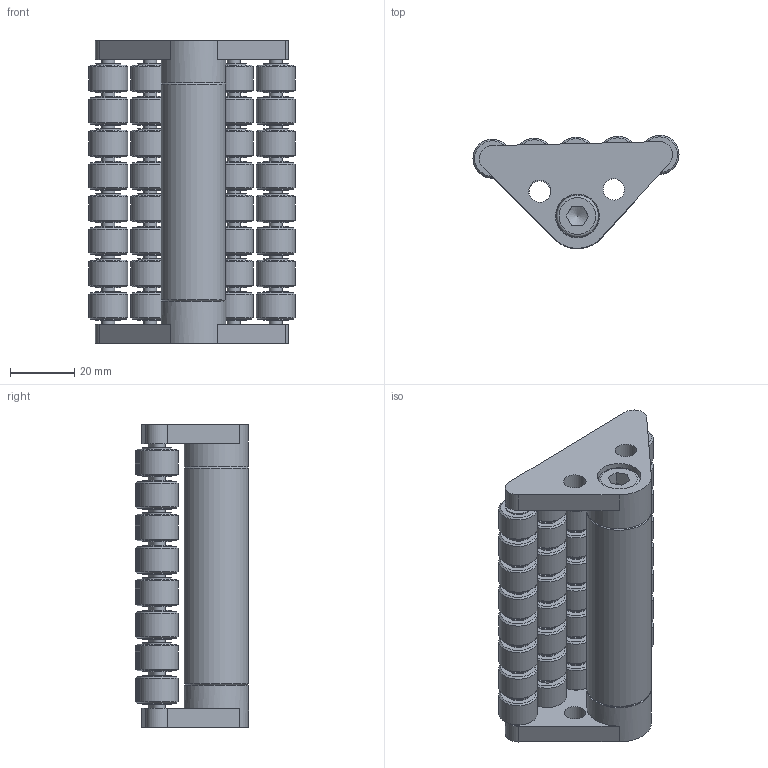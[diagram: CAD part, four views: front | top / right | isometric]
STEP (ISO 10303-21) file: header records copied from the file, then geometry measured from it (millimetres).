
FILE_DESCRIPTION(/* description */ ('RULLÖVERGÅNG STD S530'),/* implementation_level */ '2;1');
FILE_NAME(/* name */ '500-7010.stp',/* time_stamp */ '2022-09-22T10:29:56+02:00',/* author */ ('PL'),/* organization */ ('CARRYLINE'),/* preprocessor_version */ 'ST-DEVELOPER v19.2',/* originating_system */ 'Autodesk Inventor 2023',/* authorisation */ '');
FILE_SCHEMA (('AUTOMOTIVE_DESIGN { 1 0 10303 214 3 1 1 }'));
Length unit declared in the file: millimetre
Products named in the file (6): 500-7010; 15960; 11972-3_5; 11972-3_4; 5510-820; 15959
Assembly tree (50 placements, depth 2):
  500-7010
    15960  x2
    11972-3_5  x5
    11972-3_4
    5510-820  x2
    15959  x40
Bounding box: 63.99 x 35.11 x 94 mm (x, y, z)
Volume: 78107.8 mm3; surface area: 47972 mm2
Topology: 50 solids, 50 shells, 512 faces, 858 edges, 540 vertices
Faces by surface type: plane 214, cylinder 194, cone 100, torus 4
Full cylindrical faces by diameter (mm): 4 x55, 6.647 x4, 6.912 x2, 7.8 x80, 8 x4, 12 x40, 13 x2, 20 x3
Entity records: 2231 total; most frequent: DIRECTION 410, CARTESIAN_POINT 332, ORIENTED_EDGE 240, AXIS2_PLACEMENT_3D 178, EDGE_CURVE 120, EDGE_LOOP 83, VERTEX_POINT 79, FACE_OUTER_BOUND 63
